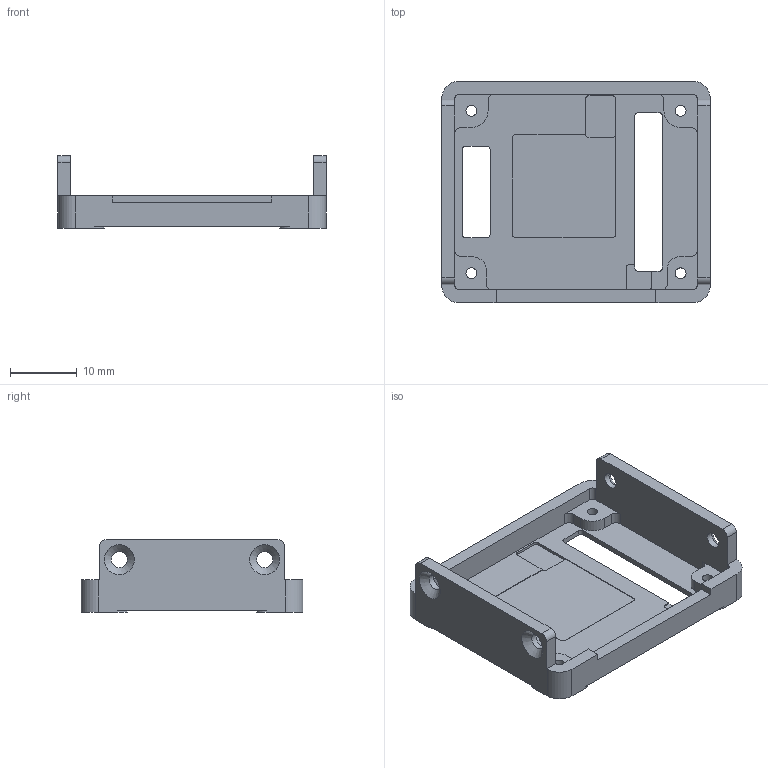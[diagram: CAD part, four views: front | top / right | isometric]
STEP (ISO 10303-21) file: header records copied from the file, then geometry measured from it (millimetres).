
FILE_DESCRIPTION(/* description */ (''),/* implementation_level */ '2;1');
FILE_NAME(/* name */ '800-10091 ENCLOSURE, VMU-RT1176 IMU CASE HOUSING, ALUMINUM.step',/* time_stamp */ '2025-07-22T13:31:19-06:00',/* author */ (''),/* organization */ (''),/* preprocessor_version */ 'ST-DEVELOPER v20.1',/* originating_system */ 'Autodesk Translation Framework v14.10.0.0',/* authorisation */ '');
FILE_SCHEMA (('AUTOMOTIVE_DESIGN { 1 0 10303 214 3 1 1 }'));
Length unit declared in the file: millimetre
Products named in the file (1): 800-10091 ENCLOSURE, VMU-RT1176 IMU CASE HOUSING, ALUMINUM
Bounding box: 40.3 x 33.3 x 10.9 mm (x, y, z)
Volume: 2654.3 mm3; surface area: 4333 mm2
Topology: 1 solids, 1 shells, 144 faces, 421 edges, 279 vertices
Faces by surface type: plane 76, cylinder 64, cone 4
Full cylindrical faces by diameter (mm): 1.623 x4, 2.4 x4
Entity records: 4870 total; most frequent: CARTESIAN_POINT 845, DIRECTION 843, ORIENTED_EDGE 842, EDGE_CURVE 421, LINE 289, VECTOR 289, VERTEX_POINT 279, AXIS2_PLACEMENT_3D 277
